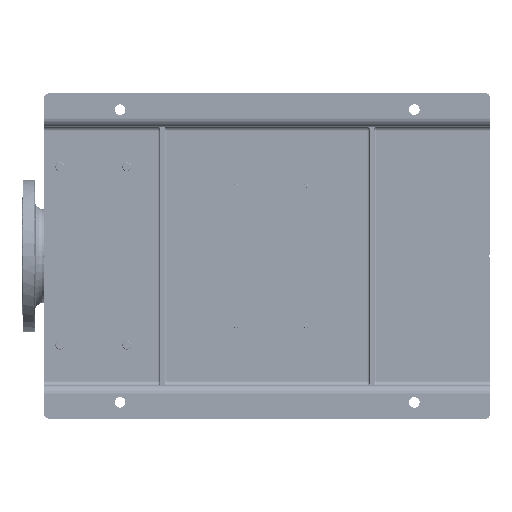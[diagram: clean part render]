
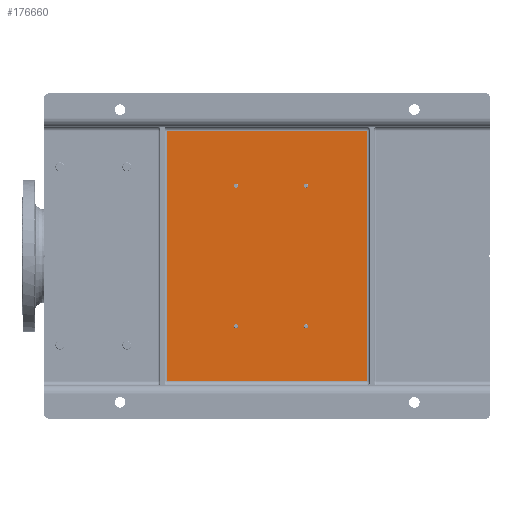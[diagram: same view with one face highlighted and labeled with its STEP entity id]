
A CAD part, front view. The second image highlights one B-rep face of the part: STEP entity #176660.
In plain terms, the highlighted planar face has unit normal (0, -1, 0).
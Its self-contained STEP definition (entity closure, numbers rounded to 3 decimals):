
#4054 = ORIENTED_EDGE ( 'NONE', *, *, #115200, .T. ) ;
#4818 = DIRECTION ( 'NONE',  ( 0., 0., -1. ) ) ;
#6278 = ORIENTED_EDGE ( 'NONE', *, *, #39945, .T. ) ;
#6786 = VERTEX_POINT ( 'NONE', #160035 ) ;
#6894 = DIRECTION ( 'NONE',  ( -1., 0., 0. ) ) ;
#9000 = CARTESIAN_POINT ( 'NONE',  ( 645., 90., -270. ) ) ;
#10492 = VERTEX_POINT ( 'NONE', #64407 ) ;
#11093 = CIRCLE ( 'NONE', #174976, 5. ) ;
#14740 = CARTESIAN_POINT ( 'NONE',  ( 202.5, 90., -587.1 ) ) ;
#15099 = VERTEX_POINT ( 'NONE', #14740 ) ;
#19587 = FACE_OUTER_BOUND ( 'NONE', #66578, .T. ) ;
#21878 = DIRECTION ( 'NONE',  ( -1., 0., 0. ) ) ;
#22878 = DIRECTION ( 'NONE',  ( 0., 1., 0. ) ) ;
#23084 = DIRECTION ( 'NONE',  ( -1., 0., 0. ) ) ;
#23543 = EDGE_CURVE ( 'NONE', #6786, #47364, #80810, .T. ) ;
#25178 = DIRECTION ( 'NONE',  ( 0., 1., 0. ) ) ;
#31821 = CARTESIAN_POINT ( 'NONE',  ( 645., 90., -725. ) ) ;
#31938 = CARTESIAN_POINT ( 'NONE',  ( 85., 90., -275. ) ) ;
#36400 = LINE ( 'NONE', #173571, #106740 ) ;
#37646 = DIRECTION ( 'NONE',  ( -1., 0., 0. ) ) ;
#39945 = EDGE_CURVE ( 'NONE', #131944, #68698, #127490, .T. ) ;
#40979 = CARTESIAN_POINT ( 'NONE',  ( 207.5, 90., -430.1 ) ) ;
#44191 = AXIS2_PLACEMENT_3D ( 'NONE', #125257, #139089, #107560 ) ;
#45337 = CARTESIAN_POINT ( 'NONE',  ( 527.5, 90., -587.1 ) ) ;
#47364 = VERTEX_POINT ( 'NONE', #108800 ) ;
#49249 = PLANE ( 'NONE',  #97123 ) ;
#49460 = AXIS2_PLACEMENT_3D ( 'NONE', #97019, #22878, #69344 ) ;
#52274 = EDGE_CURVE ( 'NONE', #134752, #15099, #132597, .T. ) ;
#52464 = DIRECTION ( 'NONE',  ( 0., 0., 1. ) ) ;
#53041 = EDGE_CURVE ( 'NONE', #141581, #10492, #151178, .T. ) ;
#54802 = VERTEX_POINT ( 'NONE', #58500 ) ;
#58500 = CARTESIAN_POINT ( 'NONE',  ( 85., 90., -725. ) ) ;
#63366 = EDGE_CURVE ( 'NONE', #165284, #118565, #166034, .T. ) ;
#64407 = CARTESIAN_POINT ( 'NONE',  ( 202.5, 90., -430.1 ) ) ;
#66578 = EDGE_LOOP ( 'NONE', ( #151655, #149348, #79138, #6278 ) ) ;
#67161 = CARTESIAN_POINT ( 'NONE',  ( 522.5, 90., -430.1 ) ) ;
#68698 = VERTEX_POINT ( 'NONE', #31938 ) ;
#69344 = DIRECTION ( 'NONE',  ( -1., 0., 0. ) ) ;
#69492 = AXIS2_PLACEMENT_3D ( 'NONE', #67161, #129324, #6894 ) ;
#73215 = ORIENTED_EDGE ( 'NONE', *, *, #53041, .T. ) ;
#74019 = ORIENTED_EDGE ( 'NONE', *, *, #63366, .T. ) ;
#75410 = DIRECTION ( 'NONE',  ( 1., 0., 0. ) ) ;
#77604 = AXIS2_PLACEMENT_3D ( 'NONE', #158366, #83382, #23084 ) ;
#79138 = ORIENTED_EDGE ( 'NONE', *, *, #141003, .T. ) ;
#80810 = CIRCLE ( 'NONE', #77604, 5. ) ;
#81728 = CARTESIAN_POINT ( 'NONE',  ( 645., 90., -275. ) ) ;
#83382 = DIRECTION ( 'NONE',  ( 0., 1., 0. ) ) ;
#86083 = CARTESIAN_POINT ( 'NONE',  ( 522.5, 90., -587.1 ) ) ;
#89239 = DIRECTION ( 'NONE',  ( 0., 1., 0. ) ) ;
#89562 = ORIENTED_EDGE ( 'NONE', *, *, #190612, .T. ) ;
#94570 = EDGE_LOOP ( 'NONE', ( #4054, #138844 ) ) ;
#94690 = FACE_BOUND ( 'NONE', #119738, .T. ) ;
#95670 = FACE_BOUND ( 'NONE', #96335, .T. ) ;
#96335 = EDGE_LOOP ( 'NONE', ( #74019, #124843 ) ) ;
#96647 = FACE_BOUND ( 'NONE', #94570, .T. ) ;
#97019 = CARTESIAN_POINT ( 'NONE',  ( 522.5, 90., -587.1 ) ) ;
#97123 = AXIS2_PLACEMENT_3D ( 'NONE', #142017, #143982, #129166 ) ;
#101072 = CIRCLE ( 'NONE', #69492, 5. ) ;
#101231 = DIRECTION ( 'NONE',  ( 1., 0., 0. ) ) ;
#103032 = ORIENTED_EDGE ( 'NONE', *, *, #129591, .T. ) ;
#106476 = CIRCLE ( 'NONE', #138014, 5. ) ;
#106740 = VECTOR ( 'NONE', #172596, 1000. ) ;
#107560 = DIRECTION ( 'NONE',  ( 1., 0., 0. ) ) ;
#108719 = VERTEX_POINT ( 'NONE', #31821 ) ;
#108800 = CARTESIAN_POINT ( 'NONE',  ( 517.5, 90., -430.1 ) ) ;
#111279 = EDGE_CURVE ( 'NONE', #118565, #165284, #106476, .T. ) ;
#111490 = CARTESIAN_POINT ( 'NONE',  ( 85., 90., -730. ) ) ;
#113086 = EDGE_CURVE ( 'NONE', #54802, #108719, #36400, .T. ) ;
#115200 = EDGE_CURVE ( 'NONE', #47364, #6786, #101072, .T. ) ;
#116401 = AXIS2_PLACEMENT_3D ( 'NONE', #40979, #25178, #101231 ) ;
#116671 = VECTOR ( 'NONE', #37646, 1000. ) ;
#118565 = VERTEX_POINT ( 'NONE', #45337 ) ;
#119738 = EDGE_LOOP ( 'NONE', ( #89562, #73215 ) ) ;
#124349 = EDGE_CURVE ( 'NONE', #68698, #54802, #125321, .T. ) ;
#124843 = ORIENTED_EDGE ( 'NONE', *, *, #111279, .T. ) ;
#125257 = CARTESIAN_POINT ( 'NONE',  ( 207.5, 90., -587.1 ) ) ;
#125321 = LINE ( 'NONE', #111490, #161791 ) ;
#126737 = ORIENTED_EDGE ( 'NONE', *, *, #52274, .T. ) ;
#127490 = LINE ( 'NONE', #187677, #116671 ) ;
#128019 = CARTESIAN_POINT ( 'NONE',  ( 212.5, 90., -430.1 ) ) ;
#129166 = DIRECTION ( 'NONE',  ( 0., 0., -1. ) ) ;
#129324 = DIRECTION ( 'NONE',  ( 0., 1., 0. ) ) ;
#129591 = EDGE_CURVE ( 'NONE', #15099, #134752, #11093, .T. ) ;
#131944 = VERTEX_POINT ( 'NONE', #81728 ) ;
#132520 = CARTESIAN_POINT ( 'NONE',  ( 207.5, 90., -587.1 ) ) ;
#132597 = CIRCLE ( 'NONE', #44191, 5. ) ;
#134752 = VERTEX_POINT ( 'NONE', #194200 ) ;
#135707 = CARTESIAN_POINT ( 'NONE',  ( 517.5, 90., -587.1 ) ) ;
#138014 = AXIS2_PLACEMENT_3D ( 'NONE', #86083, #171928, #21878 ) ;
#138844 = ORIENTED_EDGE ( 'NONE', *, *, #23543, .T. ) ;
#139089 = DIRECTION ( 'NONE',  ( 0., 1., 0. ) ) ;
#140133 = EDGE_LOOP ( 'NONE', ( #103032, #126737 ) ) ;
#141003 = EDGE_CURVE ( 'NONE', #108719, #131944, #155156, .T. ) ;
#141581 = VERTEX_POINT ( 'NONE', #128019 ) ;
#142017 = CARTESIAN_POINT ( 'NONE',  ( 75., 90., -1000. ) ) ;
#143982 = DIRECTION ( 'NONE',  ( 0., -1., 0. ) ) ;
#146513 = CARTESIAN_POINT ( 'NONE',  ( 207.5, 90., -430.1 ) ) ;
#149348 = ORIENTED_EDGE ( 'NONE', *, *, #113086, .T. ) ;
#151178 = CIRCLE ( 'NONE', #116401, 5. ) ;
#151655 = ORIENTED_EDGE ( 'NONE', *, *, #124349, .T. ) ;
#155156 = LINE ( 'NONE', #9000, #193138 ) ;
#156830 = FACE_BOUND ( 'NONE', #140133, .T. ) ;
#158366 = CARTESIAN_POINT ( 'NONE',  ( 522.5, 90., -430.1 ) ) ;
#159176 = DIRECTION ( 'NONE',  ( 1., 0., 0. ) ) ;
#160035 = CARTESIAN_POINT ( 'NONE',  ( 527.5, 90., -430.1 ) ) ;
#161791 = VECTOR ( 'NONE', #4818, 1000. ) ;
#165284 = VERTEX_POINT ( 'NONE', #135707 ) ;
#166034 = CIRCLE ( 'NONE', #49460, 5. ) ;
#171928 = DIRECTION ( 'NONE',  ( 0., 1., 0. ) ) ;
#172596 = DIRECTION ( 'NONE',  ( 1., 0., 0. ) ) ;
#173571 = CARTESIAN_POINT ( 'NONE',  ( 75., 90., -725. ) ) ;
#174976 = AXIS2_PLACEMENT_3D ( 'NONE', #132520, #189774, #159176 ) ;
#176660 = ADVANCED_FACE ( 'NONE', ( #94690, #96647, #95670, #156830, #19587 ), #49249, .T. ) ;
#182455 = AXIS2_PLACEMENT_3D ( 'NONE', #146513, #89239, #75410 ) ;
#187677 = CARTESIAN_POINT ( 'NONE',  ( 75., 90., -275. ) ) ;
#189774 = DIRECTION ( 'NONE',  ( 0., 1., 0. ) ) ;
#190612 = EDGE_CURVE ( 'NONE', #10492, #141581, #195135, .T. ) ;
#193138 = VECTOR ( 'NONE', #52464, 1000. ) ;
#194200 = CARTESIAN_POINT ( 'NONE',  ( 212.5, 90., -587.1 ) ) ;
#195135 = CIRCLE ( 'NONE', #182455, 5. ) ;
